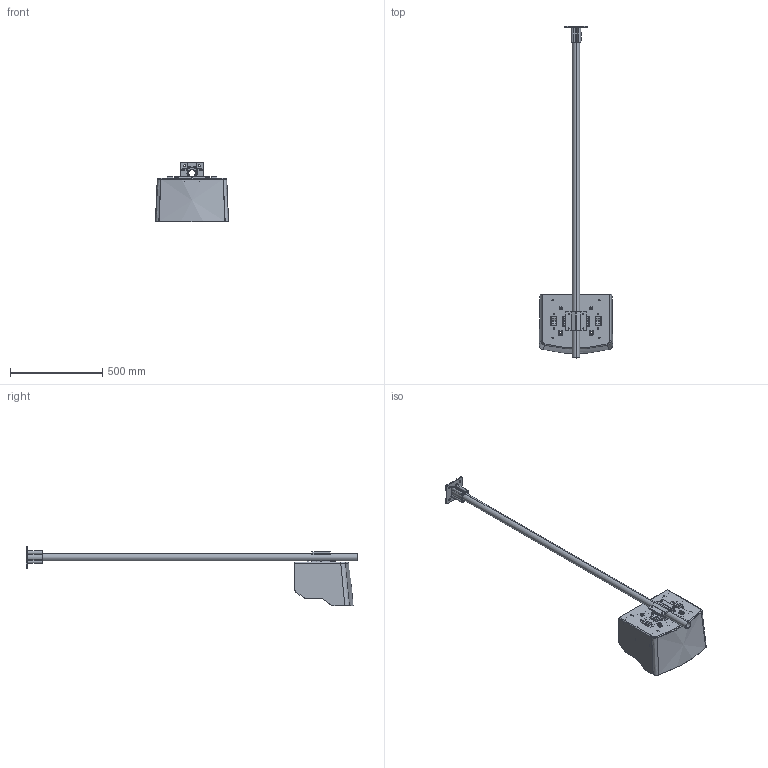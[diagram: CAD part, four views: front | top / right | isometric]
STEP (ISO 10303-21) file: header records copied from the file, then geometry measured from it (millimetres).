
FILE_DESCRIPTION (( 'STEP AP214' ), '1' );
FILE_NAME ('LZX957.TD.00000__001.STEP', '2011-09-20T08:02:53', ( 'helpdesk' ), ( 'Hach-Lange' ), 'SwSTEP 2.0', 'SolidWorks 2011', '' );
FILE_SCHEMA (( 'AUTOMOTIVE_DESIGN' ));
Length unit declared in the file: millimetre
Products named in the file (6): HPP537_TD__001; ATS010_Sockel, bearbeitet; Stativrohr 1,8m; HPP530_Polster; hvq813_TD__001; LZX957.TD.00000__001
Assembly tree (10 placements, depth 2):
  LZX957.TD.00000__001
    HPP530_Polster  x6
    ATS010_Sockel, bearbeitet
    HPP537_TD__001
    Stativrohr 1,8m
    hvq813_TD__001
Bounding box: 397.55 x 1803 x 323.89 mm (x, y, z)
Volume: 2483493.2 mm3; surface area: 1283060.1 mm2
Topology: 10 solids, 10 shells, 1369 faces, 3562 edges, 2229 vertices
Faces by surface type: cylinder 567, plane 527, torus 115, bspline 105, cone 45, sphere 10
Entity records: 44550 total; most frequent: CARTESIAN_POINT 14172, ORIENTED_EDGE 6820, DIRECTION 5741, EDGE_CURVE 3410, VERTEX_POINT 2145, AXIS2_PLACEMENT_3D 2008, LINE 1725, VECTOR 1725
